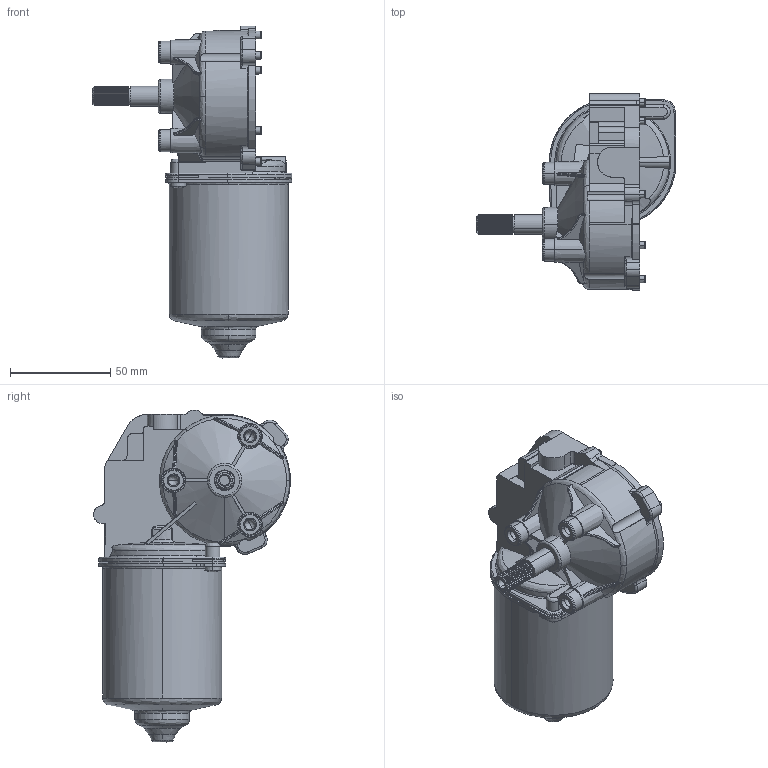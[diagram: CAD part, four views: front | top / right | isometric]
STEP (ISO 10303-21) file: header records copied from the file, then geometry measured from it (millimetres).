
FILE_DESCRIPTION (( 'STEP AP203' ), '1' );
FILE_NAME ('Motor-404865-KGK.step', '2005-10-04T09:13:54', ( 'System Administrator' ), ( 'Cevican' ), 'SwSTEP 2.0', 'SolidWorks 2002308', '' );
FILE_SCHEMA (( 'CONFIG_CONTROL_DESIGN' ));
Length unit declared in the file: millimetre
Products named in the file (3): Motor-404865-KGK; Motor-DCK31-Right-KGK_Motor-DCK31-Left-KGK; Shaft-W326-KGK_Shaft-W326-KGK
Assembly tree (2 placements, depth 2):
  Motor-404865-KGK
    Motor-DCK31-Right-KGK_Motor-DCK31-Left-KGK
    Shaft-W326-KGK_Shaft-W326-KGK
Bounding box: 99.5 x 98.03 x 165.2 mm (x, y, z)
Volume: 224316.5 mm3; surface area: 68615.5 mm2
Topology: 2 solids, 4 shells, 689 faces, 1993 edges, 1327 vertices
Faces by surface type: plane 230, cylinder 199, bspline 167, cone 93
Entity records: 56001 total; most frequent: CARTESIAN_POINT 39733, ORIENTED_EDGE 3960, DIRECTION 2470, EDGE_CURVE 1980, VERTEX_POINT 1327, AXIS2_PLACEMENT_3D 927, B_SPLINE_CURVE_WITH_KNOTS 923, EDGE_LOOP 729
